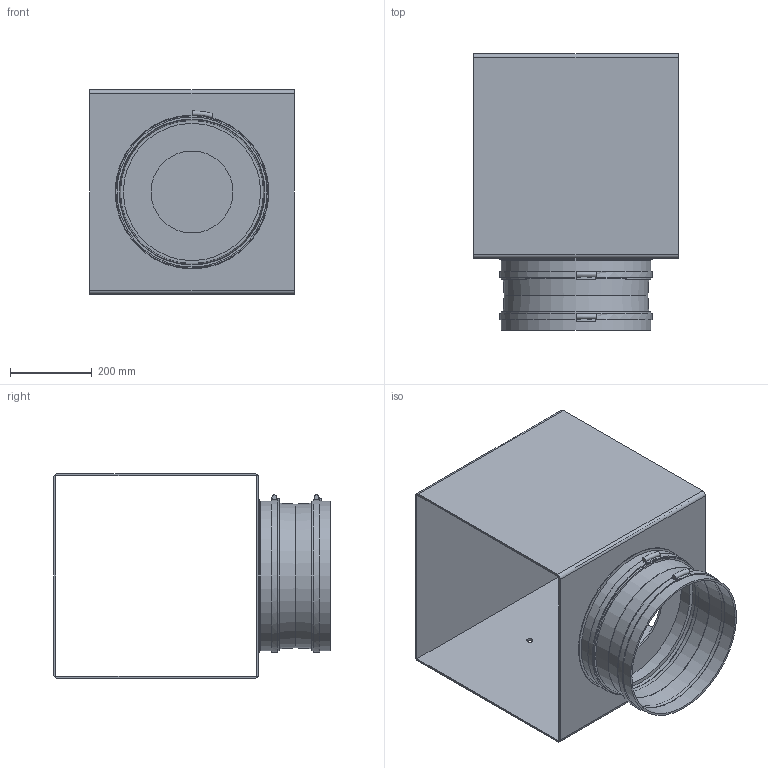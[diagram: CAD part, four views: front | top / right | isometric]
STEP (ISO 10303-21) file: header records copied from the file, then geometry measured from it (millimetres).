
FILE_DESCRIPTION(/* description */ (''),/* implementation_level */ '2;1');
FILE_NAME(/* name */ 'Z:\Output\GBW 355_4 T 120_DoubleRadial-05770-001.stp',/* time_stamp */ '2017-05-09T00:04:16+02:00',/* author */ ('jayeshpanchal'),/* organization */ (''),/* preprocessor_version */ 'ST-DEVELOPER v16.5',/* originating_system */ 'Autodesk Inventor 2017',/* authorisation */ '');
FILE_SCHEMA (('AUTOMOTIVE_DESIGN { 1 0 10303 214 3 1 1 }'));
Length unit declared in the file: millimetre
Products named in the file (1): GB-3
Bounding box: 500 x 675 x 500 mm (x, y, z)
Volume: 5812667.4 mm3; surface area: 2470443.7 mm2
Topology: 4 solids, 4 shells, 63 faces, 129 edges, 83 vertices
Faces by surface type: plane 31, cylinder 26, cone 4, torus 2
Full cylindrical faces by diameter (mm): 15 x2, 200 x1, 335 x1, 345 x1, 355 x1, 356 x4, 365 x1, 366 x4, 372 x2, 375 x1
Entity records: 1587 total; most frequent: DIRECTION 292, CARTESIAN_POINT 248, ORIENTED_EDGE 212, AXIS2_PLACEMENT_3D 124, EDGE_LOOP 108, EDGE_CURVE 104, VERTEX_POINT 80, FACE_OUTER_BOUND 63
